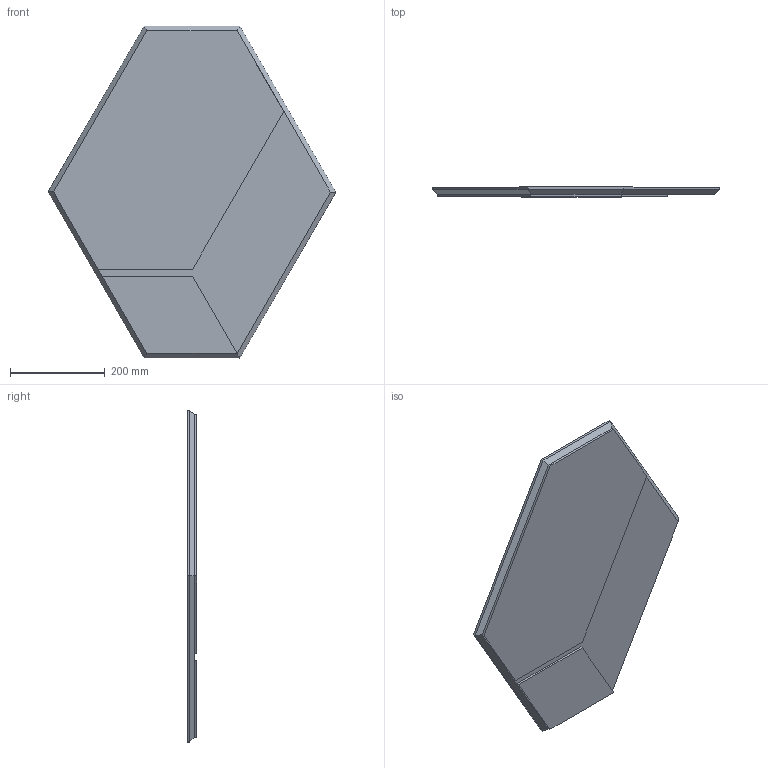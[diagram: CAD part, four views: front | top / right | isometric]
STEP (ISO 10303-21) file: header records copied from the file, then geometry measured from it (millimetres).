
FILE_DESCRIPTION (( 'STEP AP203' ), '1' );
FILE_NAME ('GEO03_GeoC_70x60,5.STEP', '2024-08-06T07:21:46', ( '' ), ( '' ), 'SwSTEP 2.0', 'SolidWorks 2022', '' );
FILE_SCHEMA (( 'CONFIG_CONTROL_DESIGN' ));
Length unit declared in the file: millimetre
Products named in the file (2): GEO0000000000-00-Geo strutture A B e C_GEO03 C 70X60,7; GEO03_GeoC_70x60,5
Assembly tree (1 placements, depth 2):
  GEO03_GeoC_70x60,5
    GEO0000000000-00-Geo strutture A B e C_GEO03 C 70X60,7
Bounding box: 606.5 x 20 x 700.01 mm (x, y, z)
Volume: 5064663.3 mm3; surface area: 994116.8 mm2
Topology: 5 solids, 5 shells, 128 faces, 328 edges, 210 vertices
Faces by surface type: plane 76, cylinder 44, cone 8
Entity records: 4016 total; most frequent: DIRECTION 672, CARTESIAN_POINT 662, ORIENTED_EDGE 640, EDGE_CURVE 320, LINE 232, VECTOR 232, AXIS2_PLACEMENT_3D 220, VERTEX_POINT 210
